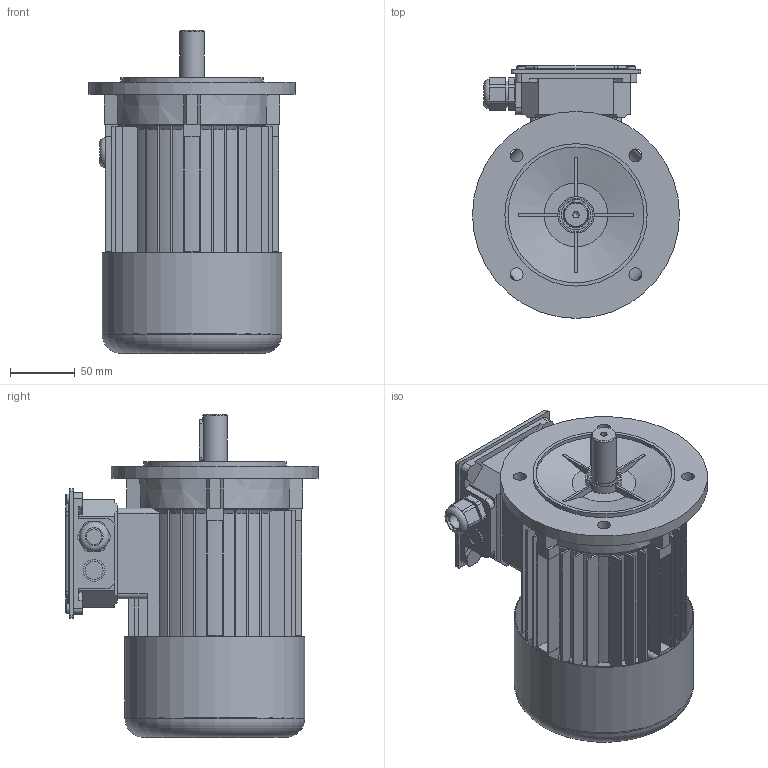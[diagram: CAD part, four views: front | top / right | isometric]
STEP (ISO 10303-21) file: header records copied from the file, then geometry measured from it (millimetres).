
FILE_DESCRIPTION(/* description */ (''),/* implementation_level */ '2;1');
FILE_NAME(/* name */ 'C:\Users\Public\Documents\Autodesk\Inventor LT 2014\Workspace\Componenti_ecoPM\2 - ECO5_71 (TG4)\ECO5_71_xxA2_xx.stp',/* time_stamp */ '2021-07-28T16:17:00+02:00',/* author */ ('marcor'),/* organization */ (''),/* preprocessor_version */ 'ST-DEVELOPER v15.2',/* originating_system */ 'Autodesk Inventor LT ',/* authorisation */ '');
FILE_SCHEMA (('AUTOMOTIVE_DESIGN { 1 0 10303 214 3 1 1 }'));
Length unit declared in the file: millimetre
Products named in the file (1): ECO5_71_xxA2_xx_FULL
Bounding box: 160 x 195.4 x 249.7 mm (x, y, z)
Volume: 2217611.4 mm3; surface area: 305333.5 mm2
Topology: 3 solids, 7 shells, 567 faces, 1488 edges, 965 vertices
Faces by surface type: plane 375, cylinder 150, cone 30, bspline 8, torus 4
Full cylindrical faces by diameter (mm): 3 x4, 3.2 x4, 4.917 x1, 7 x4, 7.5 x4, 10 x4, 12 x1, 13.95 x2, 14 x1, 17 x2, 18 x1, 19 x1, 19.9 x1, 20 x2, 23 x1, 23.5 x1, 26 x2, 28 x1, 28.8 x1, 75 x1, 105 x1, 106.2 x1, 110 x1, 137.8 x1, 139 x1, 155.6 x1, 160 x1
Entity records: 16961 total; most frequent: CARTESIAN_POINT 3382, DIRECTION 2804, ORIENTED_EDGE 2794, EDGE_CURVE 1397, AXIS2_PLACEMENT_3D 987, VERTEX_POINT 943, LINE 830, VECTOR 830
